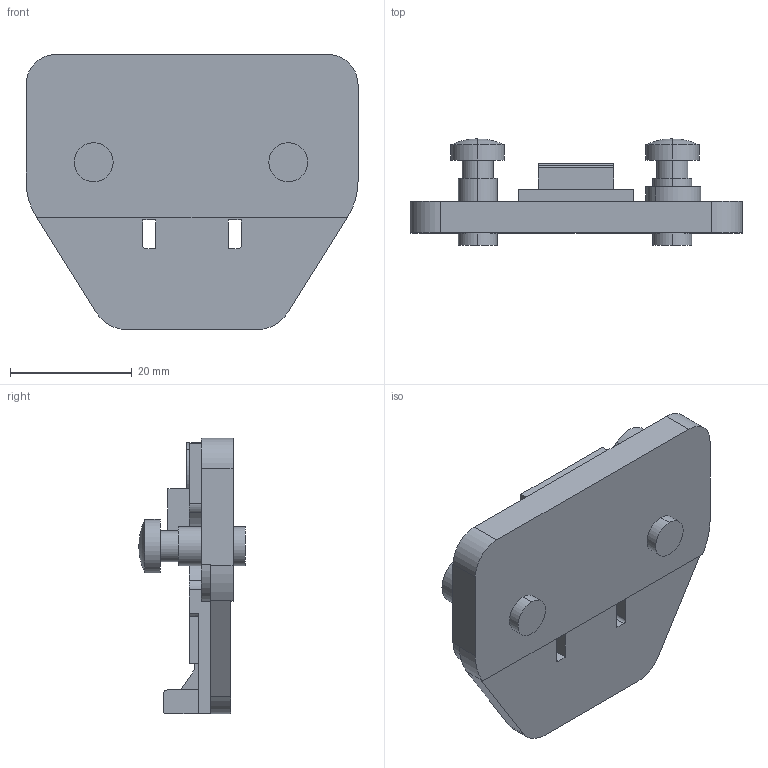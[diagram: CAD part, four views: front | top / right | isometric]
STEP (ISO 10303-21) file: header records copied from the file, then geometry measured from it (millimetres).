
FILE_DESCRIPTION (( 'STEP AP203' ), '1' );
FILE_NAME ('89T22TQ-DTC3D.STEP', '2021-04-13T01:05:40', ( '' ), ( '' ), 'SwSTEP 2.0', 'SolidWorks 2018', '' );
FILE_SCHEMA (( 'CONFIG_CONTROL_DESIGN' ));
Length unit declared in the file: millimetre
Products named in the file (1): 89T22TQ-DTC3D
Bounding box: 54.6 x 17.5 x 45.3 mm (x, y, z)
Volume: 13196.6 mm3; surface area: 6842.9 mm2
Topology: 1 solids, 1 shells, 118 faces, 318 edges, 208 vertices
Faces by surface type: plane 68, cylinder 44, torus 4, bspline 2
Entity records: 3775 total; most frequent: CARTESIAN_POINT 667, DIRECTION 642, ORIENTED_EDGE 628, EDGE_CURVE 314, AXIS2_PLACEMENT_3D 215, LINE 212, VECTOR 212, VERTEX_POINT 208
